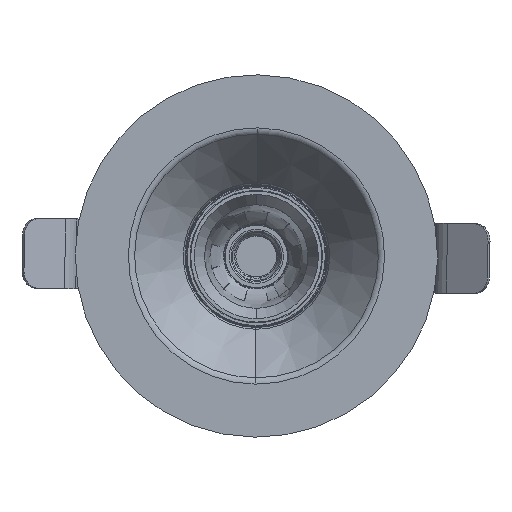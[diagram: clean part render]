
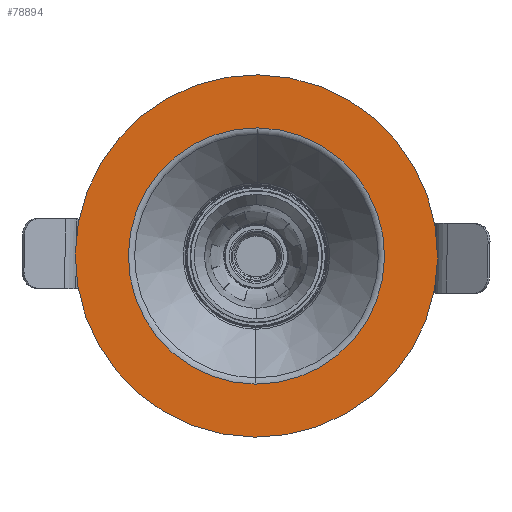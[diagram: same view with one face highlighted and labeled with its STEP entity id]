
A CAD part, front view. The second image highlights one B-rep face of the part: STEP entity #78894.
In plain terms, the highlighted planar face has unit normal (0, -1, 0).
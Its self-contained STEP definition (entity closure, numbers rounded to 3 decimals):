
#6675 = VERTEX_POINT ( 'NONE', #23900 ) ;
#8212 = FACE_BOUND ( 'NONE', #116191, .T. ) ;
#12231 = DIRECTION ( 'NONE',  ( -1., 0., 0. ) ) ;
#13559 = AXIS2_PLACEMENT_3D ( 'NONE', #84311, #25384, #94211 ) ;
#14924 = CARTESIAN_POINT ( 'NONE',  ( -10.771, -51.925, 56.976 ) ) ;
#17262 = AXIS2_PLACEMENT_3D ( 'NONE', #43181, #102150, #102570 ) ;
#19951 = CARTESIAN_POINT ( 'NONE',  ( -63.271, -51.925, 56.976 ) ) ;
#22007 = CIRCLE ( 'NONE', #17262, 37.132 ) ;
#22077 = EDGE_CURVE ( 'NONE', #66543, #6675, #102800, .T. ) ;
#22638 = PLANE ( 'NONE',  #41552 ) ;
#23900 = CARTESIAN_POINT ( 'NONE',  ( 41.729, -51.925, 56.976 ) ) ;
#25384 = DIRECTION ( 'NONE',  ( 0., -1., 0. ) ) ;
#29245 = VERTEX_POINT ( 'NONE', #85824 ) ;
#30740 = EDGE_CURVE ( 'NONE', #29245, #89495, #47482, .T. ) ;
#33649 = DIRECTION ( 'NONE',  ( 0., 1., 0. ) ) ;
#37386 = AXIS2_PLACEMENT_3D ( 'NONE', #56662, #57510, #66641 ) ;
#41352 = EDGE_CURVE ( 'NONE', #89495, #29245, #22007, .T. ) ;
#41552 = AXIS2_PLACEMENT_3D ( 'NONE', #14924, #102255, #73810 ) ;
#43181 = CARTESIAN_POINT ( 'NONE',  ( -10.771, -51.925, 56.976 ) ) ;
#44161 = EDGE_LOOP ( 'NONE', ( #72613, #76603 ) ) ;
#45729 = ORIENTED_EDGE ( 'NONE', *, *, #41352, .T. ) ;
#47482 = CIRCLE ( 'NONE', #59482, 37.132 ) ;
#53018 = ORIENTED_EDGE ( 'NONE', *, *, #30740, .T. ) ;
#56662 = CARTESIAN_POINT ( 'NONE',  ( -10.771, -51.925, 56.976 ) ) ;
#57510 = DIRECTION ( 'NONE',  ( 0., -1., 0. ) ) ;
#59482 = AXIS2_PLACEMENT_3D ( 'NONE', #71961, #33649, #12231 ) ;
#66543 = VERTEX_POINT ( 'NONE', #19951 ) ;
#66641 = DIRECTION ( 'NONE',  ( -1., 0., 0. ) ) ;
#71961 = CARTESIAN_POINT ( 'NONE',  ( -10.771, -51.925, 56.976 ) ) ;
#72613 = ORIENTED_EDGE ( 'NONE', *, *, #22077, .T. ) ;
#73810 = DIRECTION ( 'NONE',  ( -1., 0., 0. ) ) ;
#76603 = ORIENTED_EDGE ( 'NONE', *, *, #78617, .T. ) ;
#78617 = EDGE_CURVE ( 'NONE', #6675, #66543, #126941, .T. ) ;
#78894 = ADVANCED_FACE ( 'NONE', ( #8212, #78930 ), #22638, .T. ) ;
#78930 = FACE_OUTER_BOUND ( 'NONE', #44161, .T. ) ;
#84311 = CARTESIAN_POINT ( 'NONE',  ( -10.771, -51.925, 56.976 ) ) ;
#85824 = CARTESIAN_POINT ( 'NONE',  ( -47.902, -51.925, 56.976 ) ) ;
#89495 = VERTEX_POINT ( 'NONE', #91632 ) ;
#91632 = CARTESIAN_POINT ( 'NONE',  ( 26.361, -51.925, 56.976 ) ) ;
#94211 = DIRECTION ( 'NONE',  ( -1., 0., 0. ) ) ;
#102150 = DIRECTION ( 'NONE',  ( 0., 1., 0. ) ) ;
#102255 = DIRECTION ( 'NONE',  ( 0., -1., 0. ) ) ;
#102570 = DIRECTION ( 'NONE',  ( -1., 0., 0. ) ) ;
#102800 = CIRCLE ( 'NONE', #13559, 52.5 ) ;
#116191 = EDGE_LOOP ( 'NONE', ( #53018, #45729 ) ) ;
#126941 = CIRCLE ( 'NONE', #37386, 52.5 ) ;
